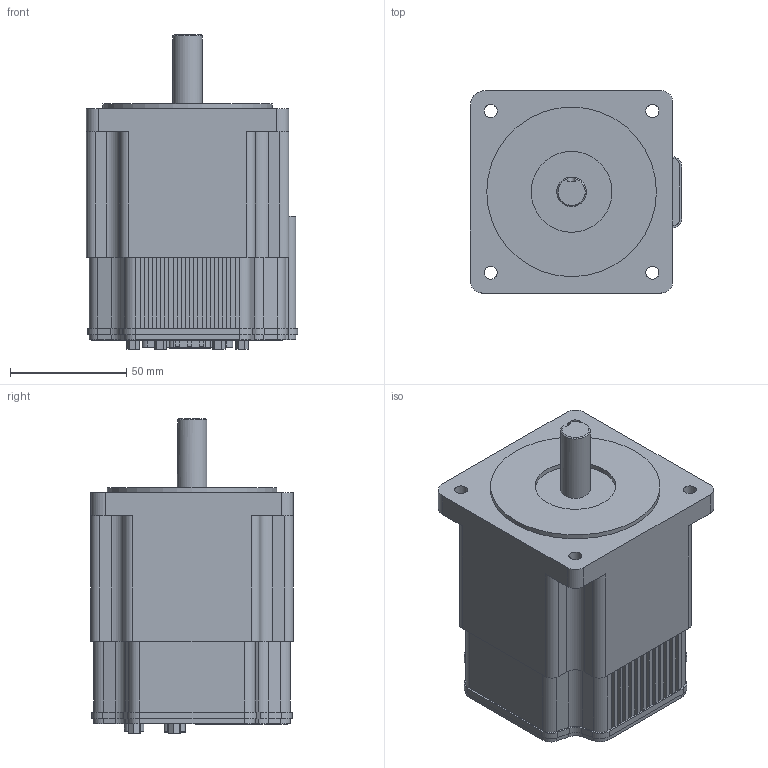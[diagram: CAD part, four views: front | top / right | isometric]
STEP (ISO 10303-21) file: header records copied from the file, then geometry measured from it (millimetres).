
FILE_DESCRIPTION(/* description */ ('Alibre Inc.'),/* implementation_level */ '2;1');
FILE_NAME(/* name */ 'export0',/* time_stamp */ '2011-01-07T11:24:54-08:00',/* author */ (''),/* organization */ (''),/* preprocessor_version */ 'ST-DEVELOPER v12',/* originating_system */ 'Alibre',/* authorisation */ '');
FILE_SCHEMA (('AUTOMOTIVE_DESIGN'));
Length unit declared in the file: inch
Bounding box: 90.93 x 87.12 x 135.33 mm (x, y, z)
Volume: 491239.9 mm3; surface area: 91381.7 mm2
Topology: 66 solids, 67 shells, 2096 faces, 5418 edges, 3551 vertices
Faces by surface type: plane 1031, bspline 641, cylinder 368, torus 50, cone 6
Full cylindrical faces by diameter (mm): 2.489 x4, 2.794 x5, 2.87 x4, 2.896 x4, 3.048 x6, 3.556 x15, 5.664 x4, 9.525 x2, 12.7 x1, 25.4 x1, 34.798 x1, 73.025 x1
Entity records: 66435 total; most frequent: CARTESIAN_POINT 22071, ORIENTED_EDGE 10586, DIRECTION 6027, EDGE_CURVE 5285, VERTEX_POINT 3489, VECTOR 3028, LINE 3028, EDGE_LOOP 2258
